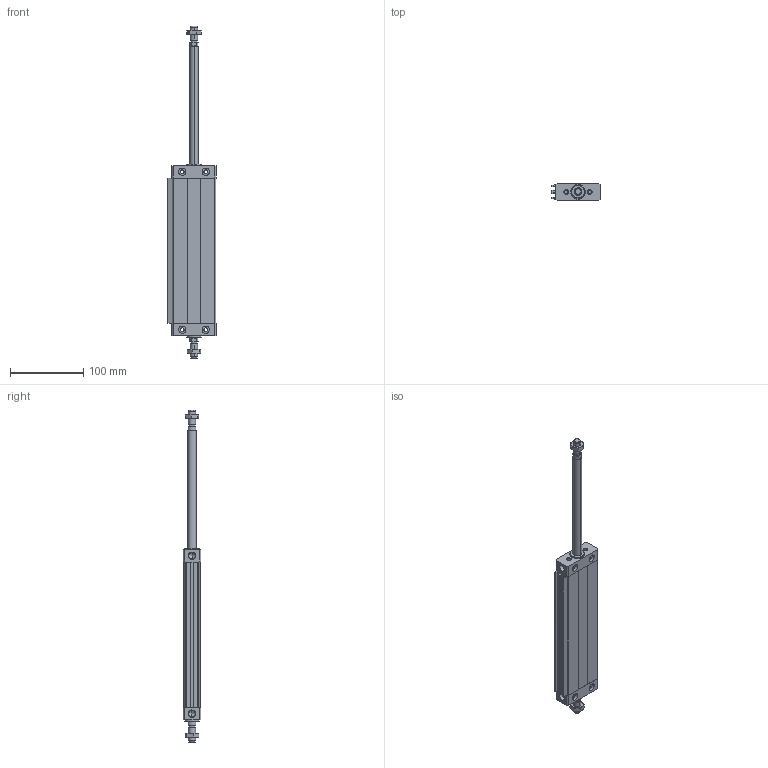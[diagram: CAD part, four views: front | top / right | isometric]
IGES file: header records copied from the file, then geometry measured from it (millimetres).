
Global section: file name: No Iges File Name specified; native system: Autodesk Inventor 2011; preprocessor: AutoDesk Inventor Iges Exporter R2011; author: airolcr1; date: 20101213.153025; units: millimetre
Bounding box: 65.5 x 24 x 452 mm (x, y, z)
Volume: 235525.1 mm3; surface area: 103926.9 mm2
Topology: 6 solids, 6 shells, 274 faces, 646 edges, 392 vertices
Faces by surface type: bspline 110, plane 96, cone 36, cylinder 18, revolution 14
